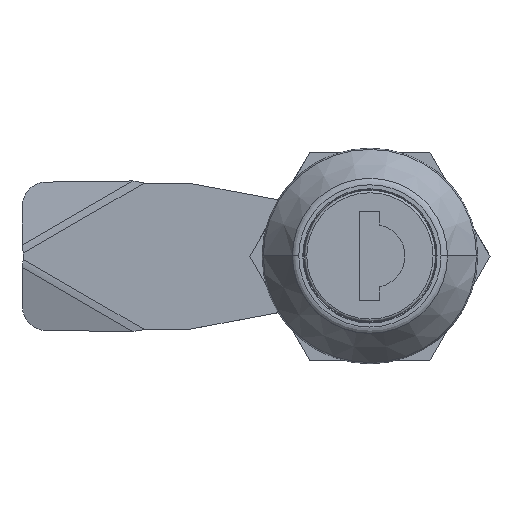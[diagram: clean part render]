
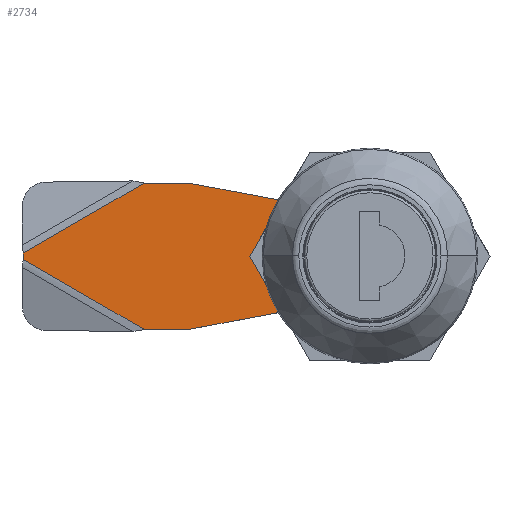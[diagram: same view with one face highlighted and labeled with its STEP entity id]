
A CAD part, top view. The second image highlights one B-rep face of the part: STEP entity #2734.
In plain terms, the highlighted planar face has unit normal (0, 0, 1).
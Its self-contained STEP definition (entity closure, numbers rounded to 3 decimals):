
#42 = CARTESIAN_POINT ( 'NONE',  ( 23.5, 9.5, 3. ) ) ;
#44 = CARTESIAN_POINT ( 'NONE',  ( 29.295, 9.5, 3. ) ) ;
#93 = DIRECTION ( 'NONE',  ( 0., 0., 1. ) ) ;
#105 = VERTEX_POINT ( 'NONE', #5532 ) ;
#154 = EDGE_CURVE ( 'NONE', #2488, #2491, #9329, .T. ) ;
#164 = EDGE_LOOP ( 'NONE', ( #4136, #2284, #1498, #4506, #3409, #8682, #5007, #9531, #1888, #4272, #5262, #7740, #7919 ) ) ;
#338 = VERTEX_POINT ( 'NONE', #4000 ) ;
#426 = ORIENTED_EDGE ( 'NONE', *, *, #6884, .T. ) ;
#615 = LINE ( 'NONE', #8421, #7783 ) ;
#663 = CARTESIAN_POINT ( 'NONE',  ( 0., 0., 3. ) ) ;
#721 = LINE ( 'NONE', #1377, #6228 ) ;
#817 = EDGE_CURVE ( 'NONE', #7953, #8719, #6259, .T. ) ;
#840 = EDGE_CURVE ( 'NONE', #7417, #338, #10355, .T. ) ;
#976 = VECTOR ( 'NONE', #8325, 1000. ) ;
#1126 = LINE ( 'NONE', #6108, #9516 ) ;
#1327 = DIRECTION ( 'NONE',  ( 1., 0., 0. ) ) ;
#1328 = CIRCLE ( 'NONE', #9176, 8.5 ) ;
#1377 = CARTESIAN_POINT ( 'NONE',  ( -4.05, -9.5, 3. ) ) ;
#1448 = VECTOR ( 'NONE', #6068, 1000. ) ;
#1468 = CARTESIAN_POINT ( 'NONE',  ( 23.051, 13.105, 3. ) ) ;
#1498 = ORIENTED_EDGE ( 'NONE', *, *, #3934, .T. ) ;
#1508 = CARTESIAN_POINT ( 'NONE',  ( 1.383, -8.387, 3. ) ) ;
#1535 = CARTESIAN_POINT ( 'NONE',  ( 9.593, -7.033, 3. ) ) ;
#1888 = ORIENTED_EDGE ( 'NONE', *, *, #9652, .T. ) ;
#1926 = VERTEX_POINT ( 'NONE', #3606 ) ;
#2008 = VECTOR ( 'NONE', #2395, 1000. ) ;
#2119 = CARTESIAN_POINT ( 'NONE',  ( 0., 0., 3. ) ) ;
#2121 = DIRECTION ( 'NONE',  ( 0., 0., -1. ) ) ;
#2141 = FACE_BOUND ( 'NONE', #10209, .T. ) ;
#2284 = ORIENTED_EDGE ( 'NONE', *, *, #840, .T. ) ;
#2293 = AXIS2_PLACEMENT_3D ( 'NONE', #9353, #9063, #9209 ) ;
#2395 = DIRECTION ( 'NONE',  ( -0.866, 0.5, 0. ) ) ;
#2488 = VERTEX_POINT ( 'NONE', #1508 ) ;
#2491 = VERTEX_POINT ( 'NONE', #1535 ) ;
#2734 = ADVANCED_FACE ( 'NONE', ( #7816, #2141 ), #3630, .F. ) ;
#2874 = EDGE_CURVE ( 'NONE', #1926, #4984, #1126, .T. ) ;
#2887 = DIRECTION ( 'NONE',  ( 0., 0., 1. ) ) ;
#2962 = CARTESIAN_POINT ( 'NONE',  ( 10., 9.5, 3. ) ) ;
#2994 = VERTEX_POINT ( 'NONE', #6845 ) ;
#3022 = DIRECTION ( 'NONE',  ( -1., 0., 0. ) ) ;
#3035 = VECTOR ( 'NONE', #9007, 1000. ) ;
#3131 = LINE ( 'NONE', #8525, #976 ) ;
#3141 = CARTESIAN_POINT ( 'NONE',  ( 42., 9.5, 3. ) ) ;
#3333 = DIRECTION ( 'NONE',  ( 0.983, -0.185, 0. ) ) ;
#3370 = EDGE_CURVE ( 'NONE', #8357, #7953, #7998, .T. ) ;
#3378 = DIRECTION ( 'NONE',  ( 1., 0., 0. ) ) ;
#3409 = ORIENTED_EDGE ( 'NONE', *, *, #6162, .T. ) ;
#3459 = EDGE_CURVE ( 'NONE', #9440, #4499, #8870, .T. ) ;
#3540 = CARTESIAN_POINT ( 'NONE',  ( 4.05, 4.05, 3. ) ) ;
#3606 = CARTESIAN_POINT ( 'NONE',  ( -4.05, 4.05, 3. ) ) ;
#3630 = PLANE ( 'NONE',  #2293 ) ;
#3867 = EDGE_CURVE ( 'NONE', #2994, #5992, #4868, .T. ) ;
#3934 = EDGE_CURVE ( 'NONE', #338, #9440, #5358, .T. ) ;
#4000 = CARTESIAN_POINT ( 'NONE',  ( 45., 0.433, 3. ) ) ;
#4136 = ORIENTED_EDGE ( 'NONE', *, *, #8717, .F. ) ;
#4272 = ORIENTED_EDGE ( 'NONE', *, *, #154, .T. ) ;
#4382 = LINE ( 'NONE', #8785, #10021 ) ;
#4420 = DIRECTION ( 'NONE',  ( 0.987, 0.163, 0. ) ) ;
#4480 = LINE ( 'NONE', #8909, #3035 ) ;
#4497 = CARTESIAN_POINT ( 'NONE',  ( 10., -4.05, 3. ) ) ;
#4499 = VERTEX_POINT ( 'NONE', #42 ) ;
#4506 = ORIENTED_EDGE ( 'NONE', *, *, #3459, .T. ) ;
#4868 = LINE ( 'NONE', #5516, #4879 ) ;
#4879 = VECTOR ( 'NONE', #3333, 1000. ) ;
#4974 = VECTOR ( 'NONE', #9299, 1000. ) ;
#4984 = VERTEX_POINT ( 'NONE', #3540 ) ;
#5007 = ORIENTED_EDGE ( 'NONE', *, *, #817, .T. ) ;
#5031 = CARTESIAN_POINT ( 'NONE',  ( 45., -0.433, 3. ) ) ;
#5052 = CARTESIAN_POINT ( 'NONE',  ( 9.593, 7.033, 3. ) ) ;
#5053 = ORIENTED_EDGE ( 'NONE', *, *, #6130, .T. ) ;
#5188 = CARTESIAN_POINT ( 'NONE',  ( 45., 6.5, 3. ) ) ;
#5262 = ORIENTED_EDGE ( 'NONE', *, *, #9930, .T. ) ;
#5358 = LINE ( 'NONE', #1468, #2008 ) ;
#5456 = VERTEX_POINT ( 'NONE', #9267 ) ;
#5463 = VECTOR ( 'NONE', #6156, 1000. ) ;
#5516 = CARTESIAN_POINT ( 'NONE',  ( 10.463, -7.043, 3. ) ) ;
#5520 = CARTESIAN_POINT ( 'NONE',  ( 9.593, -7.033, 3. ) ) ;
#5532 = CARTESIAN_POINT ( 'NONE',  ( -8.5, 0., 3. ) ) ;
#5644 = CARTESIAN_POINT ( 'NONE',  ( 10.463, 7.043, 3. ) ) ;
#5682 = VERTEX_POINT ( 'NONE', #5876 ) ;
#5808 = CIRCLE ( 'NONE', #9064, 8.5 ) ;
#5828 = LINE ( 'NONE', #4497, #1448 ) ;
#5876 = CARTESIAN_POINT ( 'NONE',  ( 4.05, -4.05, 3. ) ) ;
#5988 = CARTESIAN_POINT ( 'NONE',  ( 10., -9.5, 3. ) ) ;
#5992 = VERTEX_POINT ( 'NONE', #8170 ) ;
#6056 = DIRECTION ( 'NONE',  ( 1., 0., 0. ) ) ;
#6068 = DIRECTION ( 'NONE',  ( -1., 0., 0. ) ) ;
#6108 = CARTESIAN_POINT ( 'NONE',  ( 10., 4.05, 3. ) ) ;
#6130 = EDGE_CURVE ( 'NONE', #4984, #5682, #4480, .T. ) ;
#6156 = DIRECTION ( 'NONE',  ( 0., 1., 0. ) ) ;
#6162 = EDGE_CURVE ( 'NONE', #4499, #8357, #4382, .T. ) ;
#6186 = DIRECTION ( 'NONE',  ( 1., 0., 0. ) ) ;
#6228 = VECTOR ( 'NONE', #8695, 1000. ) ;
#6259 = LINE ( 'NONE', #10029, #4974 ) ;
#6591 = DIRECTION ( 'NONE',  ( 1., 0., 0. ) ) ;
#6692 = CARTESIAN_POINT ( 'NONE',  ( -4.05, -4.05, 3. ) ) ;
#6845 = CARTESIAN_POINT ( 'NONE',  ( 10.463, -7.043, 3. ) ) ;
#6884 = EDGE_CURVE ( 'NONE', #9088, #1926, #721, .T. ) ;
#6938 = DIRECTION ( 'NONE',  ( -1., 0., 0. ) ) ;
#7175 = EDGE_CURVE ( 'NONE', #8719, #105, #5808, .T. ) ;
#7254 = VECTOR ( 'NONE', #6938, 1000. ) ;
#7289 = EDGE_CURVE ( 'NONE', #5992, #5456, #615, .T. ) ;
#7417 = VERTEX_POINT ( 'NONE', #5031 ) ;
#7740 = ORIENTED_EDGE ( 'NONE', *, *, #3867, .T. ) ;
#7783 = VECTOR ( 'NONE', #1327, 1000. ) ;
#7816 = FACE_OUTER_BOUND ( 'NONE', #164, .T. ) ;
#7919 = ORIENTED_EDGE ( 'NONE', *, *, #7289, .T. ) ;
#7953 = VERTEX_POINT ( 'NONE', #5052 ) ;
#7998 = CIRCLE ( 'NONE', #8502, 2.5 ) ;
#8152 = ORIENTED_EDGE ( 'NONE', *, *, #8776, .T. ) ;
#8170 = CARTESIAN_POINT ( 'NONE',  ( 23.5, -9.5, 3. ) ) ;
#8325 = DIRECTION ( 'NONE',  ( -0.866, -0.5, 0. ) ) ;
#8357 = VERTEX_POINT ( 'NONE', #5644 ) ;
#8421 = CARTESIAN_POINT ( 'NONE',  ( 42., -9.5, 3. ) ) ;
#8486 = CARTESIAN_POINT ( 'NONE',  ( 1.383, 8.387, 3. ) ) ;
#8502 = AXIS2_PLACEMENT_3D ( 'NONE', #2962, #2121, #6056 ) ;
#8525 = CARTESIAN_POINT ( 'NONE',  ( 14.824, -17.855, 3. ) ) ;
#8682 = ORIENTED_EDGE ( 'NONE', *, *, #3370, .T. ) ;
#8695 = DIRECTION ( 'NONE',  ( 0., 1., 0. ) ) ;
#8717 = EDGE_CURVE ( 'NONE', #7417, #5456, #3131, .T. ) ;
#8719 = VERTEX_POINT ( 'NONE', #8486 ) ;
#8776 = EDGE_CURVE ( 'NONE', #5682, #9088, #5828, .T. ) ;
#8785 = CARTESIAN_POINT ( 'NONE',  ( 10.463, 7.043, 3. ) ) ;
#8855 = CIRCLE ( 'NONE', #10042, 2.5 ) ;
#8870 = LINE ( 'NONE', #3141, #7254 ) ;
#8909 = CARTESIAN_POINT ( 'NONE',  ( 4.05, -9.5, 3. ) ) ;
#8914 = DIRECTION ( 'NONE',  ( 0., 0., -1. ) ) ;
#8972 = DIRECTION ( 'NONE',  ( -0.983, -0.185, 0. ) ) ;
#9007 = DIRECTION ( 'NONE',  ( 0., -1., 0. ) ) ;
#9063 = DIRECTION ( 'NONE',  ( 0., 0., -1. ) ) ;
#9064 = AXIS2_PLACEMENT_3D ( 'NONE', #2119, #2887, #6591 ) ;
#9088 = VERTEX_POINT ( 'NONE', #6692 ) ;
#9176 = AXIS2_PLACEMENT_3D ( 'NONE', #663, #93, #3378 ) ;
#9209 = DIRECTION ( 'NONE',  ( -1., 0., 0. ) ) ;
#9267 = CARTESIAN_POINT ( 'NONE',  ( 29.295, -9.5, 3. ) ) ;
#9299 = DIRECTION ( 'NONE',  ( -0.987, 0.163, 0. ) ) ;
#9329 = LINE ( 'NONE', #5520, #10358 ) ;
#9353 = CARTESIAN_POINT ( 'NONE',  ( 10., -9.5, 3. ) ) ;
#9440 = VERTEX_POINT ( 'NONE', #44 ) ;
#9516 = VECTOR ( 'NONE', #6186, 1000. ) ;
#9531 = ORIENTED_EDGE ( 'NONE', *, *, #7175, .T. ) ;
#9652 = EDGE_CURVE ( 'NONE', #105, #2488, #1328, .T. ) ;
#9930 = EDGE_CURVE ( 'NONE', #2491, #2994, #8855, .T. ) ;
#9946 = ORIENTED_EDGE ( 'NONE', *, *, #2874, .T. ) ;
#10021 = VECTOR ( 'NONE', #8972, 1000. ) ;
#10029 = CARTESIAN_POINT ( 'NONE',  ( 9.593, 7.033, 3. ) ) ;
#10042 = AXIS2_PLACEMENT_3D ( 'NONE', #5988, #8914, #3022 ) ;
#10209 = EDGE_LOOP ( 'NONE', ( #5053, #8152, #426, #9946 ) ) ;
#10355 = LINE ( 'NONE', #5188, #5463 ) ;
#10358 = VECTOR ( 'NONE', #4420, 1000. ) ;
